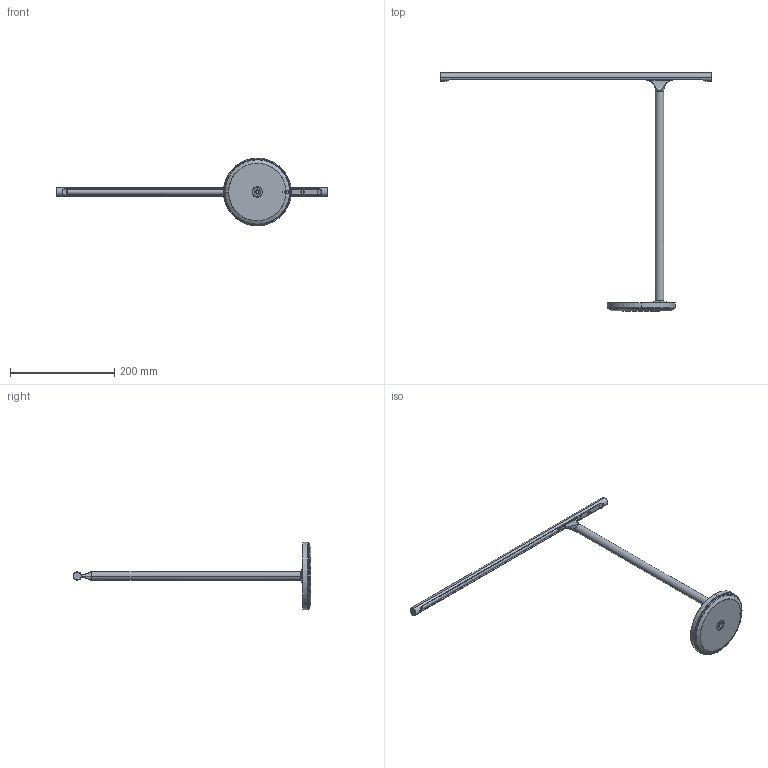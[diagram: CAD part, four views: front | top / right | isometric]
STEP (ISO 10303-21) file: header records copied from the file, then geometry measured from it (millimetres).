
FILE_DESCRIPTION (( 'STEP AP203' ), '1' );
FILE_NAME ('Gallery - Architects Lamp.STEP', '2024-03-24T23:32:07', ( '' ), ( '' ), 'SwSTEP 2.0', 'SolidWorks 2017', '' );
FILE_SCHEMA (( 'CONFIG_CONTROL_DESIGN' ));
Length unit declared in the file: millimetre
Products named in the file (1): Gallery - Architects Lamp
Bounding box: 520 x 455.5 x 130 mm (x, y, z)
Volume: 373875.9 mm3; surface area: 100996.5 mm2
Topology: 3 solids, 5 shells, 233 faces, 552 edges, 334 vertices
Faces by surface type: cylinder 77, plane 67, bspline 44, torus 35, cone 6, sphere 4
Entity records: 9280 total; most frequent: CARTESIAN_POINT 4133, ORIENTED_EDGE 1096, DIRECTION 1014, EDGE_CURVE 548, AXIS2_PLACEMENT_3D 412, VERTEX_POINT 334, EDGE_LOOP 244, FACE_OUTER_BOUND 233
